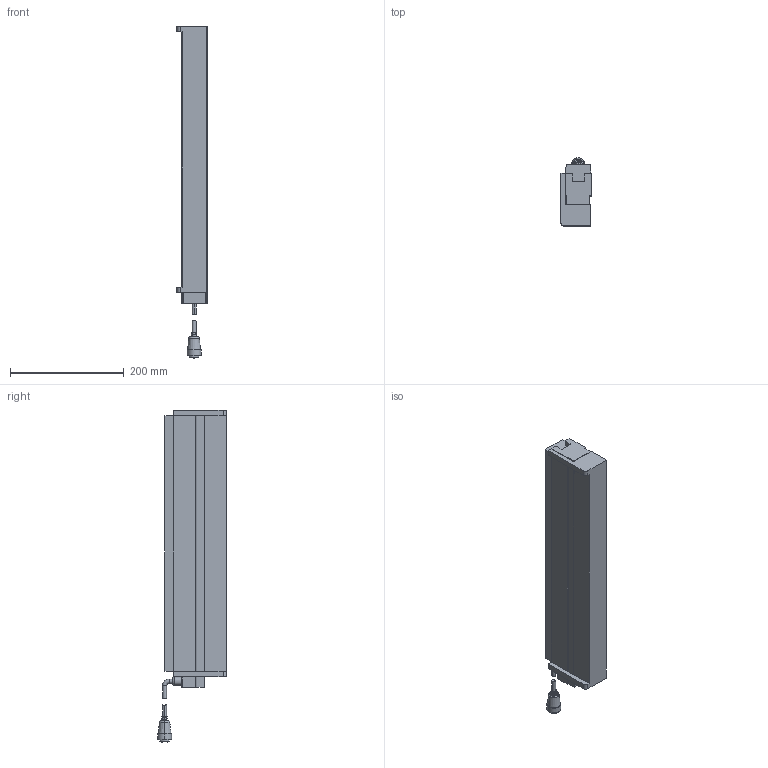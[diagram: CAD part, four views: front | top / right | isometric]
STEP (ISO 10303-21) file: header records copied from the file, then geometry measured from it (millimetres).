
FILE_DESCRIPTION((''),'2;1');
FILE_NAME('P-LSP-450-1_1_1','2019-09-19T',('rs-zhongwm'),(''),'PRO/ENGINEER BY PARAMETRIC TECHNOLOGY CORPORATION, 2010100','PRO/ENGINEER BY PARAMETRIC TECHNOLOGY CORPORATION, 2010100','');
FILE_SCHEMA(('CONFIG_CONTROL_DESIGN'));
Length unit declared in the file: millimetre
Products named in the file (1): P-LSP-450-1_1_1
Bounding box: 53 x 121.3 x 584.5 mm (x, y, z)
Volume: 1470976.1 mm3; surface area: 208209 mm2
Topology: 1 solids, 4 shells, 161 faces, 414 edges, 274 vertices
Faces by surface type: plane 84, cylinder 51, torus 14, bspline 8, cone 4
Entity records: 5291 total; most frequent: CARTESIAN_POINT 1231, DIRECTION 872, ORIENTED_EDGE 828, EDGE_CURVE 414, AXIS2_PLACEMENT_3D 330, VERTEX_POINT 274, VECTOR 212, LINE 212
